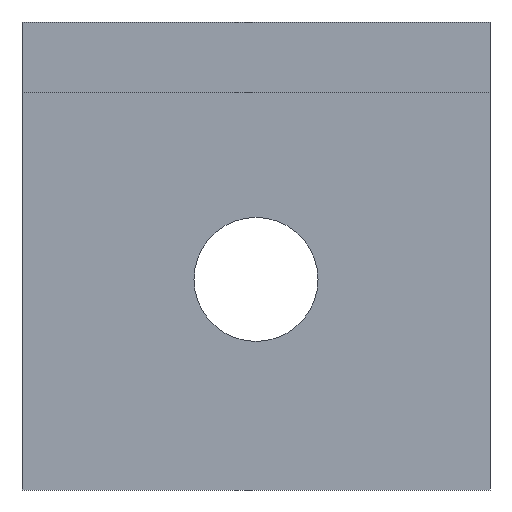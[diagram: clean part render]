
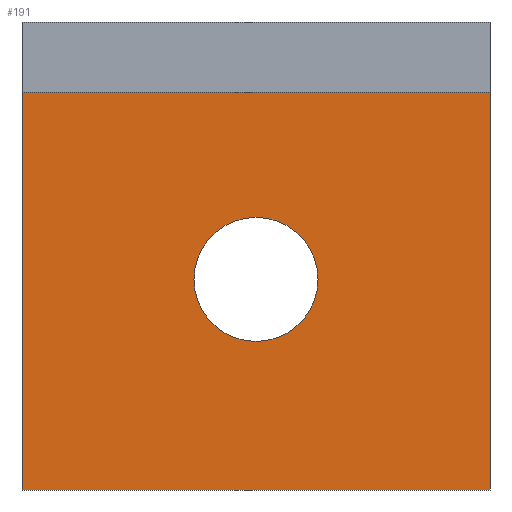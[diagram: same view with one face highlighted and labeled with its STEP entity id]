
A CAD part, front view. The second image highlights one B-rep face of the part: STEP entity #191.
In plain terms, the highlighted planar face has unit normal (0, -1, 0).
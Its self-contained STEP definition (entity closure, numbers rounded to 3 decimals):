
#2=DIRECTION('',(1.,0.,0.));
#3=VECTOR('',#2,20.);
#4=CARTESIAN_POINT('',(-10.,0.,7.));
#5=LINE('',#4,#3);
#6=DIRECTION('',(0.,0.,-1.));
#7=VECTOR('',#6,17.);
#8=CARTESIAN_POINT('',(10.,0.,7.));
#9=LINE('',#8,#7);
#10=DIRECTION('',(-1.,0.,0.));
#11=VECTOR('',#10,20.);
#12=CARTESIAN_POINT('',(10.,0.,-10.));
#13=LINE('',#12,#11);
#14=DIRECTION('',(0.,0.,1.));
#15=VECTOR('',#14,17.);
#16=CARTESIAN_POINT('',(-10.,0.,-10.));
#17=LINE('',#16,#15);
#18=CARTESIAN_POINT('',(0.,0.,-1.));
#19=DIRECTION('',(0.,1.,0.));
#20=DIRECTION('',(1.,0.,0.));
#21=AXIS2_PLACEMENT_3D('',#18,#19,#20);
#23=CARTESIAN_POINT('',(0.,0.,-1.));
#24=DIRECTION('',(0.,1.,0.));
#25=DIRECTION('',(-1.,0.,0.));
#26=AXIS2_PLACEMENT_3D('',#23,#24,#25);
#130=CARTESIAN_POINT('',(10.,0.,-10.));
#131=CARTESIAN_POINT('',(-10.,0.,-10.));
#132=VERTEX_POINT('',#130);
#133=VERTEX_POINT('',#131);
#150=CARTESIAN_POINT('',(-10.,0.,7.));
#151=CARTESIAN_POINT('',(10.,0.,7.));
#152=VERTEX_POINT('',#150);
#153=VERTEX_POINT('',#151);
#162=CARTESIAN_POINT('',(2.65,0.,-1.));
#163=CARTESIAN_POINT('',(-2.65,0.,-1.));
#164=VERTEX_POINT('',#162);
#165=VERTEX_POINT('',#163);
#170=CARTESIAN_POINT('',(0.,0.,0.));
#171=DIRECTION('',(0.,1.,0.));
#172=DIRECTION('',(1.,0.,0.));
#173=AXIS2_PLACEMENT_3D('',#170,#171,#172);
#174=PLANE('',#173);
#176=ORIENTED_EDGE('',*,*,#175,.T.);
#178=ORIENTED_EDGE('',*,*,#177,.T.);
#180=ORIENTED_EDGE('',*,*,#179,.T.);
#182=ORIENTED_EDGE('',*,*,#181,.T.);
#183=EDGE_LOOP('',(#176,#178,#180,#182));
#184=FACE_OUTER_BOUND('',#183,.F.);
#186=ORIENTED_EDGE('',*,*,#185,.F.);
#188=ORIENTED_EDGE('',*,*,#187,.F.);
#189=EDGE_LOOP('',(#186,#188));
#190=FACE_BOUND('',#189,.F.);
#191=ADVANCED_FACE('',(#184,#190),#174,.F.);
#22=CIRCLE('',#21,2.65);
#27=CIRCLE('',#26,2.65);
#175=EDGE_CURVE('',#152,#153,#5,.T.);
#177=EDGE_CURVE('',#153,#132,#9,.T.);
#179=EDGE_CURVE('',#132,#133,#13,.T.);
#181=EDGE_CURVE('',#133,#152,#17,.T.);
#185=EDGE_CURVE('',#164,#165,#22,.T.);
#187=EDGE_CURVE('',#165,#164,#27,.T.);
